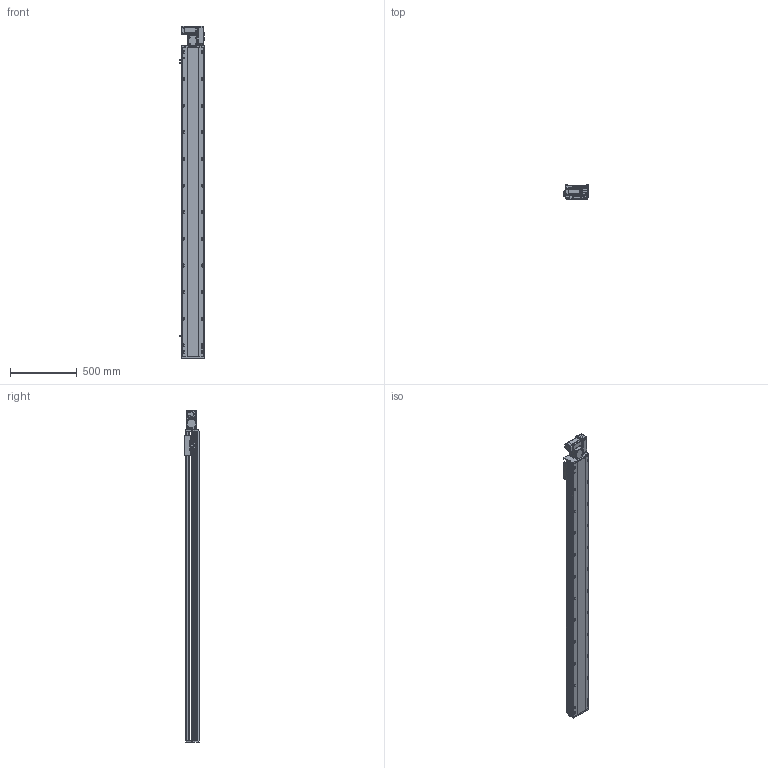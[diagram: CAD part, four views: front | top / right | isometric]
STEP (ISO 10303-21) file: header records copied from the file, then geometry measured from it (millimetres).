
FILE_DESCRIPTION (( 'STEP AP214' ), '1' );
FILE_NAME ('RTB17S-XX-2050-R-M40-C4.STEP', '2025-12-11T07:44:19', ( '' ), ( '' ), 'SwSTEP 2.0', 'SolidWorks 2018', '' );
FILE_SCHEMA (( 'AUTOMOTIVE_DESIGN' ));
Length unit declared in the file: millimetre
Products named in the file (14): RTB17S-XX-2050-R-M40-C4; RTB17S-L-004佪裝蹟譫蟀諉釱^RTB17S-XX-XX-R-M40-C4; 400W侜督萇儂^RTB17S-XX-XX-R-M40-C4; RTB17S-L-001耜醱啣^RTB17S-XX-XX-R-M40-C4; RTB17S-L-007奻裔^RTB17S-XX-XX-R-M40-C4; RTB14-L-005P--轴承塑胶压盖^RTB17S-R-皮带座装配-400W_RTB17S-XX-XX-R-M40-C4; RTB14-L-017P^RTB17S-R-々湍釱蚾饜-400W_RTB17S-XX-XX-R-M40-C4; OMRON EE-SX672 传感器^RTB17S-XX-XX-R-M40-C4; RTH13-BL-012覜茼え俋离^RTB17S-XX-XX-R-M40-C4; RTB17S-R-々湍釱蚾饜-400W^RTB17S-XX-XX-R-M40-C4; RTB17-R-011菁釱^RTB17S-XX-XX-R-M40-C4; RTB14-L-018P^RTB17S-R-々湍釱蚾饜-400W_RTB17S-XX-XX-R-M40-C4; RTB17S-L-014-T20--々湍釱^RTB17S-R-々湍釱蚾饜-400W_RTB17S-XX-XX-R-M40-C4; RTB14-L-008-M20--萇儂啣^RTB17S-R-々湍釱蚾饜-400W_RTB17S-XX-XX-R-M40-C4
Assembly tree (16 placements, depth 3):
  RTB17S-XX-2050-R-M40-C4
    RTB17-R-011菁釱^RTB17S-XX-XX-R-M40-C4
    RTB17S-L-007奻裔^RTB17S-XX-XX-R-M40-C4
    OMRON EE-SX672 传感器^RTB17S-XX-XX-R-M40-C4  x3
    RTB17S-L-001耜醱啣^RTB17S-XX-XX-R-M40-C4
    400W侜督萇儂^RTB17S-XX-XX-R-M40-C4
    RTB17S-L-004佪裝蹟譫蟀諉釱^RTB17S-XX-XX-R-M40-C4
    RTH13-BL-012覜茼え俋离^RTB17S-XX-XX-R-M40-C4
    RTB17S-R-々湍釱蚾饜-400W^RTB17S-XX-XX-R-M40-C4
      RTB17S-L-014-T20--々湍釱^RTB17S-R-々湍釱蚾饜-400W_RTB17S-XX-XX-R-M40-C4
      RTB14-L-005P--轴承塑胶压盖^RTB17S-R-皮带座装配-400W_RTB17S-XX-XX-R-M40-C4
      RTB14-L-008-M20--萇儂啣^RTB17S-R-々湍釱蚾饜-400W_RTB17S-XX-XX-R-M40-C4
      RTB14-L-017P^RTB17S-R-々湍釱蚾饜-400W_RTB17S-XX-XX-R-M40-C4  x2
      RTB14-L-018P^RTB17S-R-々湍釱蚾饜-400W_RTB17S-XX-XX-R-M40-C4
Bounding box: 183.5 x 108 x 2491 mm (x, y, z)
Volume: 20931773.7 mm3; surface area: 2433619.4 mm2
Topology: 15 solids, 15 shells, 2301 faces, 6411 edges, 4185 vertices
Faces by surface type: plane 1080, cylinder 773, bspline 301, cone 139, torus 8
Entity records: 67241 total; most frequent: CARTESIAN_POINT 19016, ORIENTED_EDGE 9666, DIRECTION 8936, EDGE_CURVE 4833, VERTEX_POINT 3173, AXIS2_PLACEMENT_3D 3103, LINE 2730, VECTOR 2730
